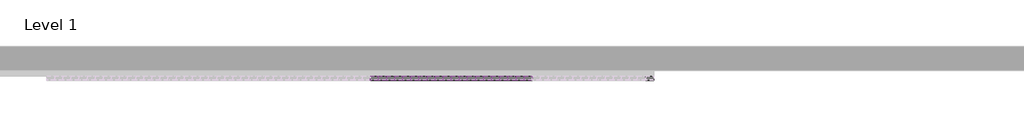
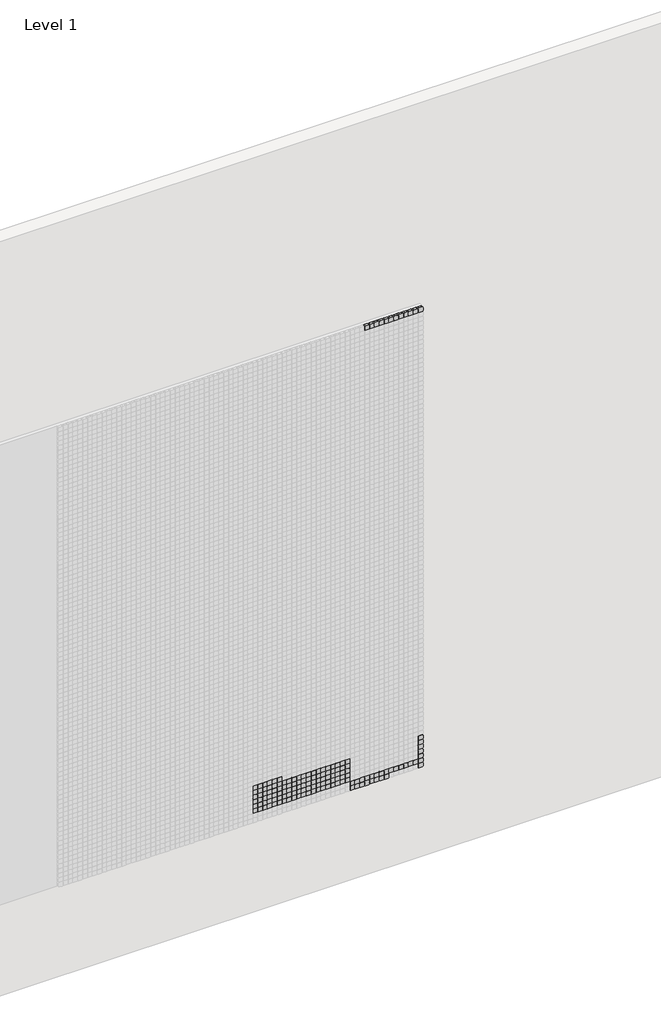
# One storey, part 61 of 71: 147 proxies.
"""IFC4 building model written with IfcOpenShell, lengths in millimetres."""

from ifc_helpers import new_model, si_unit, origin, place, context, project, spatial, transform, mapped, element, save
from components import generic_models_afde289c

model = new_model("IFC4")

# Units and contexts
model_context = context("Model", 3, world=origin())
ifc_project = project(units=[si_unit("LENGTHUNIT", "METRE", prefix="MILLI")], contexts=[model_context])

# Site, building, storey
site = spatial("IfcSite", under=ifc_project)
building = spatial("IfcBuilding", under=site)
storey = spatial("IfcBuildingStorey", under=building, Name="Level 1", Elevation=0.0)

# Proxies
placement = place(None, origin())
generic_models_shape = generic_models_afde289c(model_context)
element("IfcBuildingElementProxy", 1, Name="Pixel_M : Pixel_M", ObjectType="Pixel_M : Pixel_M", at=placement, inside=storey, context=model_context, shape_type="MappedRepresentation", body=[
    mapped(generic_models_shape, transform((9712.4280941, -75.0, 5966.3566215), x_axis=(1.0, 0.0, 0.0), y_axis=(0.0, 0.0, 1.0), z_axis=(0.0, -1.0, 0.0))),
])
element("IfcBuildingElementProxy", 2, Name="Pixel_M : Pixel_M", ObjectType="Pixel_M : Pixel_M", at=placement, inside=storey, context=model_context, shape_type="MappedRepresentation", body=[
    mapped(generic_models_shape, transform((9712.4280941, -75.0, 1016.3566215), x_axis=(1.0, 0.0, 0.0), y_axis=(0.0, 0.0, 1.0), z_axis=(0.0, -1.0, 0.0))),
])
element("IfcBuildingElementProxy", 3, Name="Pixel_M : Pixel_M", ObjectType="Pixel_M : Pixel_M", at=placement, inside=storey, context=model_context, shape_type="MappedRepresentation", body=[
    mapped(generic_models_shape, transform((9362.4280941, -75.0, 1016.3566215), x_axis=(1.0, 0.0, 0.0), y_axis=(0.0, 0.0, 1.0), z_axis=(0.0, -1.0, 0.0))),
])
element("IfcBuildingElementProxy", 4, Name="Pixel_M : Pixel_M", ObjectType="Pixel_M : Pixel_M", at=placement, inside=storey, context=model_context, shape_type="MappedRepresentation", body=[
    mapped(generic_models_shape, transform((9312.4280941, -75.0, 1016.3566215), x_axis=(1.0, 0.0, 0.0), y_axis=(0.0, 0.0, 1.0), z_axis=(0.0, -1.0, 0.0))),
])
element("IfcBuildingElementProxy", 5, Name="Pixel_M : Pixel_M", ObjectType="Pixel_M : Pixel_M", at=placement, inside=storey, context=model_context, shape_type="MappedRepresentation", body=[
    mapped(generic_models_shape, transform((9262.4280941, -75.0, 1016.3566215), x_axis=(1.0, 0.0, 0.0), y_axis=(0.0, 0.0, 1.0), z_axis=(0.0, -1.0, 0.0))),
])
element("IfcBuildingElementProxy", 6, Name="Pixel_M : Pixel_M", ObjectType="Pixel_M : Pixel_M", at=placement, inside=storey, context=model_context, shape_type="MappedRepresentation", body=[
    mapped(generic_models_shape, transform((9212.4280941, -75.0, 1016.3566215), x_axis=(1.0, 0.0, 0.0), y_axis=(0.0, 0.0, 1.0), z_axis=(0.0, -1.0, 0.0))),
])
element("IfcBuildingElementProxy", 7, Name="Pixel_M : Pixel_M", ObjectType="Pixel_M : Pixel_M", at=placement, inside=storey, context=model_context, shape_type="MappedRepresentation", body=[
    mapped(generic_models_shape, transform((9162.4280941, -75.0, 1016.3566215), x_axis=(1.0, 0.0, 0.0), y_axis=(0.0, 0.0, 1.0), z_axis=(0.0, -1.0, 0.0))),
])
element("IfcBuildingElementProxy", 8, Name="Pixel_M : Pixel_M", ObjectType="Pixel_M : Pixel_M", at=placement, inside=storey, context=model_context, shape_type="MappedRepresentation", body=[
    mapped(generic_models_shape, transform((9112.4280941, -75.0, 1016.3566215), x_axis=(1.0, 0.0, 0.0), y_axis=(0.0, 0.0, 1.0), z_axis=(0.0, -1.0, 0.0))),
])
element("IfcBuildingElementProxy", 9, Name="Pixel_M : Pixel_M", ObjectType="Pixel_M : Pixel_M", at=placement, inside=storey, context=model_context, shape_type="MappedRepresentation", body=[
    mapped(generic_models_shape, transform((9062.4280941, -75.0, 1016.3566215), x_axis=(1.0, 0.0, 0.0), y_axis=(0.0, 0.0, 1.0), z_axis=(0.0, -1.0, 0.0))),
])
element("IfcBuildingElementProxy", 10, Name="Pixel_M : Pixel_M", ObjectType="Pixel_M : Pixel_M", at=placement, inside=storey, context=model_context, shape_type="MappedRepresentation", body=[
    mapped(generic_models_shape, transform((9012.4280941, -75.0, 1016.3566215), x_axis=(1.0, 0.0, 0.0), y_axis=(0.0, 0.0, 1.0), z_axis=(0.0, -1.0, 0.0))),
])
element("IfcBuildingElementProxy", 11, Name="Pixel_M : Pixel_M", ObjectType="Pixel_M : Pixel_M", at=placement, inside=storey, context=model_context, shape_type="MappedRepresentation", body=[
    mapped(generic_models_shape, transform((9662.4280941, -75.0, 1066.3566215), x_axis=(1.0, 0.0, 0.0), y_axis=(0.0, 0.0, 1.0), z_axis=(0.0, -1.0, 0.0))),
])
element("IfcBuildingElementProxy", 12, Name="Pixel_M : Pixel_M", ObjectType="Pixel_M : Pixel_M", at=placement, inside=storey, context=model_context, shape_type="MappedRepresentation", body=[
    mapped(generic_models_shape, transform((9612.4280941, -75.0, 1066.3566215), x_axis=(1.0, 0.0, 0.0), y_axis=(0.0, 0.0, 1.0), z_axis=(0.0, -1.0, 0.0))),
])
element("IfcBuildingElementProxy", 13, Name="Pixel_M : Pixel_M", ObjectType="Pixel_M : Pixel_M", at=placement, inside=storey, context=model_context, shape_type="MappedRepresentation", body=[
    mapped(generic_models_shape, transform((9562.4280941, -75.0, 1066.3566215), x_axis=(1.0, 0.0, 0.0), y_axis=(0.0, 0.0, 1.0), z_axis=(0.0, -1.0, 0.0))),
])
element("IfcBuildingElementProxy", 14, Name="Pixel_M : Pixel_M", ObjectType="Pixel_M : Pixel_M", at=placement, inside=storey, context=model_context, shape_type="MappedRepresentation", body=[
    mapped(generic_models_shape, transform((9512.4280941, -75.0, 1066.3566215), x_axis=(1.0, 0.0, 0.0), y_axis=(0.0, 0.0, 1.0), z_axis=(0.0, -1.0, 0.0))),
])
element("IfcBuildingElementProxy", 15, Name="Pixel_M : Pixel_M", ObjectType="Pixel_M : Pixel_M", at=placement, inside=storey, context=model_context, shape_type="MappedRepresentation", body=[
    mapped(generic_models_shape, transform((9462.4280941, -75.0, 1066.3566215), x_axis=(1.0, 0.0, 0.0), y_axis=(0.0, 0.0, 1.0), z_axis=(0.0, -1.0, 0.0))),
])
element("IfcBuildingElementProxy", 16, Name="Pixel_M : Pixel_M", ObjectType="Pixel_M : Pixel_M", at=placement, inside=storey, context=model_context, shape_type="MappedRepresentation", body=[
    mapped(generic_models_shape, transform((9412.4280941, -75.0, 1066.3566215), x_axis=(1.0, 0.0, 0.0), y_axis=(0.0, 0.0, 1.0), z_axis=(0.0, -1.0, 0.0))),
])
element("IfcBuildingElementProxy", 17, Name="Pixel_M : Pixel_M", ObjectType="Pixel_M : Pixel_M", at=placement, inside=storey, context=model_context, shape_type="MappedRepresentation", body=[
    mapped(generic_models_shape, transform((9362.4280941, -75.0, 1066.3566215), x_axis=(1.0, 0.0, 0.0), y_axis=(0.0, 0.0, 1.0), z_axis=(0.0, -1.0, 0.0))),
])
element("IfcBuildingElementProxy", 18, Name="Pixel_M : Pixel_M", ObjectType="Pixel_M : Pixel_M", at=placement, inside=storey, context=model_context, shape_type="MappedRepresentation", body=[
    mapped(generic_models_shape, transform((9312.4280941, -75.0, 1066.3566215), x_axis=(1.0, 0.0, 0.0), y_axis=(0.0, 0.0, 1.0), z_axis=(0.0, -1.0, 0.0))),
])
element("IfcBuildingElementProxy", 19, Name="Pixel_M : Pixel_M", ObjectType="Pixel_M : Pixel_M", at=placement, inside=storey, context=model_context, shape_type="MappedRepresentation", body=[
    mapped(generic_models_shape, transform((9262.4280941, -75.0, 1066.3566215), x_axis=(1.0, 0.0, 0.0), y_axis=(0.0, 0.0, 1.0), z_axis=(0.0, -1.0, 0.0))),
])
element("IfcBuildingElementProxy", 20, Name="Pixel_M : Pixel_M", ObjectType="Pixel_M : Pixel_M", at=placement, inside=storey, context=model_context, shape_type="MappedRepresentation", body=[
    mapped(generic_models_shape, transform((9212.4280941, -75.0, 1066.3566215), x_axis=(1.0, 0.0, 0.0), y_axis=(0.0, 0.0, 1.0), z_axis=(0.0, -1.0, 0.0))),
])
element("IfcBuildingElementProxy", 21, Name="Pixel_M : Pixel_M", ObjectType="Pixel_M : Pixel_M", at=placement, inside=storey, context=model_context, shape_type="MappedRepresentation", body=[
    mapped(generic_models_shape, transform((9162.4280941, -75.0, 1066.3566215), x_axis=(1.0, 0.0, 0.0), y_axis=(0.0, 0.0, 1.0), z_axis=(0.0, -1.0, 0.0))),
])
element("IfcBuildingElementProxy", 22, Name="Pixel_M : Pixel_M", ObjectType="Pixel_M : Pixel_M", at=placement, inside=storey, context=model_context, shape_type="MappedRepresentation", body=[
    mapped(generic_models_shape, transform((9112.4280941, -75.0, 1066.3566215), x_axis=(1.0, 0.0, 0.0), y_axis=(0.0, 0.0, 1.0), z_axis=(0.0, -1.0, 0.0))),
])
element("IfcBuildingElementProxy", 23, Name="Pixel_M : Pixel_M", ObjectType="Pixel_M : Pixel_M", at=placement, inside=storey, context=model_context, shape_type="MappedRepresentation", body=[
    mapped(generic_models_shape, transform((9062.4280941, -75.0, 1066.3566215), x_axis=(1.0, 0.0, 0.0), y_axis=(0.0, 0.0, 1.0), z_axis=(0.0, -1.0, 0.0))),
])
element("IfcBuildingElementProxy", 24, Name="Pixel_M : Pixel_M", ObjectType="Pixel_M : Pixel_M", at=placement, inside=storey, context=model_context, shape_type="MappedRepresentation", body=[
    mapped(generic_models_shape, transform((9012.4280941, -75.0, 1066.3566215), x_axis=(1.0, 0.0, 0.0), y_axis=(0.0, 0.0, 1.0), z_axis=(0.0, -1.0, 0.0))),
])
element("IfcBuildingElementProxy", 25, Name="Pixel_M : Pixel_M", ObjectType="Pixel_M : Pixel_M", at=placement, inside=storey, context=model_context, shape_type="MappedRepresentation", body=[
    mapped(generic_models_shape, transform((9712.4280941, -75.0, 1316.3566215), x_axis=(1.0, 0.0, 0.0), y_axis=(0.0, 0.0, 1.0), z_axis=(0.0, -1.0, 0.0))),
])
element("IfcBuildingElementProxy", 26, Name="Pixel_M : Pixel_M", ObjectType="Pixel_M : Pixel_M", at=placement, inside=storey, context=model_context, shape_type="MappedRepresentation", body=[
    mapped(generic_models_shape, transform((9712.4280941, -75.0, 1266.3566215), x_axis=(1.0, 0.0, 0.0), y_axis=(0.0, 0.0, 1.0), z_axis=(0.0, -1.0, 0.0))),
])
element("IfcBuildingElementProxy", 27, Name="Pixel_M : Pixel_M", ObjectType="Pixel_M : Pixel_M", at=placement, inside=storey, context=model_context, shape_type="MappedRepresentation", body=[
    mapped(generic_models_shape, transform((9712.4280941, -75.0, 1216.3566215), x_axis=(1.0, 0.0, 0.0), y_axis=(0.0, 0.0, 1.0), z_axis=(0.0, -1.0, 0.0))),
])
element("IfcBuildingElementProxy", 28, Name="Pixel_M : Pixel_M", ObjectType="Pixel_M : Pixel_M", at=placement, inside=storey, context=model_context, shape_type="MappedRepresentation", body=[
    mapped(generic_models_shape, transform((9712.4280941, -75.0, 1166.3566215), x_axis=(1.0, 0.0, 0.0), y_axis=(0.0, 0.0, 1.0), z_axis=(0.0, -1.0, 0.0))),
])
element("IfcBuildingElementProxy", 29, Name="Pixel_M : Pixel_M", ObjectType="Pixel_M : Pixel_M", at=placement, inside=storey, context=model_context, shape_type="MappedRepresentation", body=[
    mapped(generic_models_shape, transform((9712.4280941, -75.0, 1116.3566215), x_axis=(1.0, 0.0, 0.0), y_axis=(0.0, 0.0, 1.0), z_axis=(0.0, -1.0, 0.0))),
])
element("IfcBuildingElementProxy", 30, Name="Pixel_M : Pixel_M", ObjectType="Pixel_M : Pixel_M", at=placement, inside=storey, context=model_context, shape_type="MappedRepresentation", body=[
    mapped(generic_models_shape, transform((9712.4280941, -75.0, 1066.3566215), x_axis=(1.0, 0.0, 0.0), y_axis=(0.0, 0.0, 1.0), z_axis=(0.0, -1.0, 0.0))),
])
element("IfcBuildingElementProxy", 31, Name="Pixel_M : Pixel_M", ObjectType="Pixel_M : Pixel_M", at=placement, inside=storey, context=model_context, shape_type="MappedRepresentation", body=[
    mapped(generic_models_shape, transform((9662.4280941, -75.0, 5966.3566215), x_axis=(1.0, 0.0, 0.0), y_axis=(0.0, 0.0, 1.0), z_axis=(0.0, -1.0, 0.0))),
])
element("IfcBuildingElementProxy", 32, Name="Pixel_M : Pixel_M", ObjectType="Pixel_M : Pixel_M", at=placement, inside=storey, context=model_context, shape_type="MappedRepresentation", body=[
    mapped(generic_models_shape, transform((9612.4280941, -75.0, 5966.3566215), x_axis=(1.0, 0.0, 0.0), y_axis=(0.0, 0.0, 1.0), z_axis=(0.0, -1.0, 0.0))),
])
element("IfcBuildingElementProxy", 33, Name="Pixel_M : Pixel_M", ObjectType="Pixel_M : Pixel_M", at=placement, inside=storey, context=model_context, shape_type="MappedRepresentation", body=[
    mapped(generic_models_shape, transform((9562.4280941, -75.0, 5966.3566215), x_axis=(1.0, 0.0, 0.0), y_axis=(0.0, 0.0, 1.0), z_axis=(0.0, -1.0, 0.0))),
])
element("IfcBuildingElementProxy", 34, Name="Pixel_M : Pixel_M", ObjectType="Pixel_M : Pixel_M", at=placement, inside=storey, context=model_context, shape_type="MappedRepresentation", body=[
    mapped(generic_models_shape, transform((9512.4280941, -75.0, 5966.3566215), x_axis=(1.0, 0.0, 0.0), y_axis=(0.0, 0.0, 1.0), z_axis=(0.0, -1.0, 0.0))),
])
element("IfcBuildingElementProxy", 35, Name="Pixel_M : Pixel_M", ObjectType="Pixel_M : Pixel_M", at=placement, inside=storey, context=model_context, shape_type="MappedRepresentation", body=[
    mapped(generic_models_shape, transform((9462.4280941, -75.0, 5966.3566215), x_axis=(1.0, 0.0, 0.0), y_axis=(0.0, 0.0, 1.0), z_axis=(0.0, -1.0, 0.0))),
])
element("IfcBuildingElementProxy", 36, Name="Pixel_M : Pixel_M", ObjectType="Pixel_M : Pixel_M", at=placement, inside=storey, context=model_context, shape_type="MappedRepresentation", body=[
    mapped(generic_models_shape, transform((9412.4280941, -75.0, 5966.3566215), x_axis=(1.0, 0.0, 0.0), y_axis=(0.0, 0.0, 1.0), z_axis=(0.0, -1.0, 0.0))),
])
element("IfcBuildingElementProxy", 37, Name="Pixel_M : Pixel_M", ObjectType="Pixel_M : Pixel_M", at=placement, inside=storey, context=model_context, shape_type="MappedRepresentation", body=[
    mapped(generic_models_shape, transform((9362.4280941, -75.0, 5966.3566215), x_axis=(1.0, 0.0, 0.0), y_axis=(0.0, 0.0, 1.0), z_axis=(0.0, -1.0, 0.0))),
])
element("IfcBuildingElementProxy", 38, Name="Pixel_M : Pixel_M", ObjectType="Pixel_M : Pixel_M", at=placement, inside=storey, context=model_context, shape_type="MappedRepresentation", body=[
    mapped(generic_models_shape, transform((9312.4280941, -75.0, 5966.3566215), x_axis=(1.0, 0.0, 0.0), y_axis=(0.0, 0.0, 1.0), z_axis=(0.0, -1.0, 0.0))),
])
element("IfcBuildingElementProxy", 39, Name="Pixel_M : Pixel_M", ObjectType="Pixel_M : Pixel_M", at=placement, inside=storey, context=model_context, shape_type="MappedRepresentation", body=[
    mapped(generic_models_shape, transform((9262.4280941, -75.0, 5966.3566215), x_axis=(1.0, 0.0, 0.0), y_axis=(0.0, 0.0, 1.0), z_axis=(0.0, -1.0, 0.0))),
])
element("IfcBuildingElementProxy", 40, Name="Pixel_M : Pixel_M", ObjectType="Pixel_M : Pixel_M", at=placement, inside=storey, context=model_context, shape_type="MappedRepresentation", body=[
    mapped(generic_models_shape, transform((9212.4280941, -75.0, 5966.3566215), x_axis=(1.0, 0.0, 0.0), y_axis=(0.0, 0.0, 1.0), z_axis=(0.0, -1.0, 0.0))),
])
element("IfcBuildingElementProxy", 41, Name="Pixel_M : Pixel_M", ObjectType="Pixel_M : Pixel_M", at=placement, inside=storey, context=model_context, shape_type="MappedRepresentation", body=[
    mapped(generic_models_shape, transform((9162.4280941, -75.0, 5966.3566215), x_axis=(1.0, 0.0, 0.0), y_axis=(0.0, 0.0, 1.0), z_axis=(0.0, -1.0, 0.0))),
])
element("IfcBuildingElementProxy", 42, Name="Pixel_M : Pixel_M", ObjectType="Pixel_M : Pixel_M", at=placement, inside=storey, context=model_context, shape_type="MappedRepresentation", body=[
    mapped(generic_models_shape, transform((8262.4280941, -75.0, 1366.3566215), x_axis=(1.0, 0.0, 0.0), y_axis=(0.0, 0.0, 1.0), z_axis=(0.0, -1.0, 0.0))),
])
element("IfcBuildingElementProxy", 43, Name="Pixel_M : Pixel_M", ObjectType="Pixel_M : Pixel_M", at=placement, inside=storey, context=model_context, shape_type="MappedRepresentation", body=[
    mapped(generic_models_shape, transform((8212.4280941, -75.0, 1366.3566215), x_axis=(1.0, 0.0, 0.0), y_axis=(0.0, 0.0, 1.0), z_axis=(0.0, -1.0, 0.0))),
])
element("IfcBuildingElementProxy", 44, Name="Pixel_M : Pixel_M", ObjectType="Pixel_M : Pixel_M", at=placement, inside=storey, context=model_context, shape_type="MappedRepresentation", body=[
    mapped(generic_models_shape, transform((8162.4280941, -75.0, 1366.3566215), x_axis=(1.0, 0.0, 0.0), y_axis=(0.0, 0.0, 1.0), z_axis=(0.0, -1.0, 0.0))),
])
element("IfcBuildingElementProxy", 45, Name="Pixel_M : Pixel_M", ObjectType="Pixel_M : Pixel_M", at=placement, inside=storey, context=model_context, shape_type="MappedRepresentation", body=[
    mapped(generic_models_shape, transform((8112.4280941, -75.0, 1366.3566215), x_axis=(1.0, 0.0, 0.0), y_axis=(0.0, 0.0, 1.0), z_axis=(0.0, -1.0, 0.0))),
])
element("IfcBuildingElementProxy", 46, Name="Pixel_M : Pixel_M", ObjectType="Pixel_M : Pixel_M", at=placement, inside=storey, context=model_context, shape_type="MappedRepresentation", body=[
    mapped(generic_models_shape, transform((8062.4280941, -75.0, 1366.3566215), x_axis=(1.0, 0.0, 0.0), y_axis=(0.0, 0.0, 1.0), z_axis=(0.0, -1.0, 0.0))),
])
element("IfcBuildingElementProxy", 47, Name="Pixel_M : Pixel_M", ObjectType="Pixel_M : Pixel_M", at=placement, inside=storey, context=model_context, shape_type="MappedRepresentation", body=[
    mapped(generic_models_shape, transform((8012.4280941, -75.0, 1366.3566215), x_axis=(1.0, 0.0, 0.0), y_axis=(0.0, 0.0, 1.0), z_axis=(0.0, -1.0, 0.0))),
])
element("IfcBuildingElementProxy", 48, Name="Pixel_M : Pixel_M", ObjectType="Pixel_M : Pixel_M", at=placement, inside=storey, context=model_context, shape_type="MappedRepresentation", body=[
    mapped(generic_models_shape, transform((8962.4280941, -75.0, 1316.3566215), x_axis=(1.0, 0.0, 0.0), y_axis=(0.0, 0.0, 1.0), z_axis=(0.0, -1.0, 0.0))),
])
element("IfcBuildingElementProxy", 49, Name="Pixel_M : Pixel_M", ObjectType="Pixel_M : Pixel_M", at=placement, inside=storey, context=model_context, shape_type="MappedRepresentation", body=[
    mapped(generic_models_shape, transform((8912.4280941, -75.0, 1316.3566215), x_axis=(1.0, 0.0, 0.0), y_axis=(0.0, 0.0, 1.0), z_axis=(0.0, -1.0, 0.0))),
])
element("IfcBuildingElementProxy", 50, Name="Pixel_M : Pixel_M", ObjectType="Pixel_M : Pixel_M", at=placement, inside=storey, context=model_context, shape_type="MappedRepresentation", body=[
    mapped(generic_models_shape, transform((8862.4280941, -75.0, 1316.3566215), x_axis=(1.0, 0.0, 0.0), y_axis=(0.0, 0.0, 1.0), z_axis=(0.0, -1.0, 0.0))),
])
element("IfcBuildingElementProxy", 51, Name="Pixel_M : Pixel_M", ObjectType="Pixel_M : Pixel_M", at=placement, inside=storey, context=model_context, shape_type="MappedRepresentation", body=[
    mapped(generic_models_shape, transform((8812.4280941, -75.0, 1316.3566215), x_axis=(1.0, 0.0, 0.0), y_axis=(0.0, 0.0, 1.0), z_axis=(0.0, -1.0, 0.0))),
])
element("IfcBuildingElementProxy", 52, Name="Pixel_M : Pixel_M", ObjectType="Pixel_M : Pixel_M", at=placement, inside=storey, context=model_context, shape_type="MappedRepresentation", body=[
    mapped(generic_models_shape, transform((8762.4280941, -75.0, 1316.3566215), x_axis=(1.0, 0.0, 0.0), y_axis=(0.0, 0.0, 1.0), z_axis=(0.0, -1.0, 0.0))),
])
element("IfcBuildingElementProxy", 53, Name="Pixel_M : Pixel_M", ObjectType="Pixel_M : Pixel_M", at=placement, inside=storey, context=model_context, shape_type="MappedRepresentation", body=[
    mapped(generic_models_shape, transform((8712.4280941, -75.0, 1316.3566215), x_axis=(1.0, 0.0, 0.0), y_axis=(0.0, 0.0, 1.0), z_axis=(0.0, -1.0, 0.0))),
])
element("IfcBuildingElementProxy", 54, Name="Pixel_M : Pixel_M", ObjectType="Pixel_M : Pixel_M", at=placement, inside=storey, context=model_context, shape_type="MappedRepresentation", body=[
    mapped(generic_models_shape, transform((8662.4280941, -75.0, 1316.3566215), x_axis=(1.0, 0.0, 0.0), y_axis=(0.0, 0.0, 1.0), z_axis=(0.0, -1.0, 0.0))),
])
element("IfcBuildingElementProxy", 55, Name="Pixel_M : Pixel_M", ObjectType="Pixel_M : Pixel_M", at=placement, inside=storey, context=model_context, shape_type="MappedRepresentation", body=[
    mapped(generic_models_shape, transform((8612.4280941, -75.0, 1316.3566215), x_axis=(1.0, 0.0, 0.0), y_axis=(0.0, 0.0, 1.0), z_axis=(0.0, -1.0, 0.0))),
])
element("IfcBuildingElementProxy", 56, Name="Pixel_M : Pixel_M", ObjectType="Pixel_M : Pixel_M", at=placement, inside=storey, context=model_context, shape_type="MappedRepresentation", body=[
    mapped(generic_models_shape, transform((8562.4280941, -75.0, 1316.3566215), x_axis=(1.0, 0.0, 0.0), y_axis=(0.0, 0.0, 1.0), z_axis=(0.0, -1.0, 0.0))),
])
element("IfcBuildingElementProxy", 57, Name="Pixel_M : Pixel_M", ObjectType="Pixel_M : Pixel_M", at=placement, inside=storey, context=model_context, shape_type="MappedRepresentation", body=[
    mapped(generic_models_shape, transform((8512.4280941, -75.0, 1316.3566215), x_axis=(1.0, 0.0, 0.0), y_axis=(0.0, 0.0, 1.0), z_axis=(0.0, -1.0, 0.0))),
])
element("IfcBuildingElementProxy", 58, Name="Pixel_M : Pixel_M", ObjectType="Pixel_M : Pixel_M", at=placement, inside=storey, context=model_context, shape_type="MappedRepresentation", body=[
    mapped(generic_models_shape, transform((8462.4280941, -75.0, 1316.3566215), x_axis=(1.0, 0.0, 0.0), y_axis=(0.0, 0.0, 1.0), z_axis=(0.0, -1.0, 0.0))),
])
element("IfcBuildingElementProxy", 59, Name="Pixel_M : Pixel_M", ObjectType="Pixel_M : Pixel_M", at=placement, inside=storey, context=model_context, shape_type="MappedRepresentation", body=[
    mapped(generic_models_shape, transform((8412.4280941, -75.0, 1316.3566215), x_axis=(1.0, 0.0, 0.0), y_axis=(0.0, 0.0, 1.0), z_axis=(0.0, -1.0, 0.0))),
])
element("IfcBuildingElementProxy", 60, Name="Pixel_M : Pixel_M", ObjectType="Pixel_M : Pixel_M", at=placement, inside=storey, context=model_context, shape_type="MappedRepresentation", body=[
    mapped(generic_models_shape, transform((8362.4280941, -75.0, 1316.3566215), x_axis=(1.0, 0.0, 0.0), y_axis=(0.0, 0.0, 1.0), z_axis=(0.0, -1.0, 0.0))),
])
element("IfcBuildingElementProxy", 61, Name="Pixel_M : Pixel_M", ObjectType="Pixel_M : Pixel_M", at=placement, inside=storey, context=model_context, shape_type="MappedRepresentation", body=[
    mapped(generic_models_shape, transform((8312.4280941, -75.0, 1316.3566215), x_axis=(1.0, 0.0, 0.0), y_axis=(0.0, 0.0, 1.0), z_axis=(0.0, -1.0, 0.0))),
])
element("IfcBuildingElementProxy", 62, Name="Pixel_M : Pixel_M", ObjectType="Pixel_M : Pixel_M", at=placement, inside=storey, context=model_context, shape_type="MappedRepresentation", body=[
    mapped(generic_models_shape, transform((8262.4280941, -75.0, 1316.3566215), x_axis=(1.0, 0.0, 0.0), y_axis=(0.0, 0.0, 1.0), z_axis=(0.0, -1.0, 0.0))),
])
element("IfcBuildingElementProxy", 63, Name="Pixel_M : Pixel_M", ObjectType="Pixel_M : Pixel_M", at=placement, inside=storey, context=model_context, shape_type="MappedRepresentation", body=[
    mapped(generic_models_shape, transform((8212.4280941, -75.0, 1316.3566215), x_axis=(1.0, 0.0, 0.0), y_axis=(0.0, 0.0, 1.0), z_axis=(0.0, -1.0, 0.0))),
])
element("IfcBuildingElementProxy", 64, Name="Pixel_M : Pixel_M", ObjectType="Pixel_M : Pixel_M", at=placement, inside=storey, context=model_context, shape_type="MappedRepresentation", body=[
    mapped(generic_models_shape, transform((8162.4280941, -75.0, 1316.3566215), x_axis=(1.0, 0.0, 0.0), y_axis=(0.0, 0.0, 1.0), z_axis=(0.0, -1.0, 0.0))),
])
element("IfcBuildingElementProxy", 65, Name="Pixel_M : Pixel_M", ObjectType="Pixel_M : Pixel_M", at=placement, inside=storey, context=model_context, shape_type="MappedRepresentation", body=[
    mapped(generic_models_shape, transform((8112.4280941, -75.0, 1316.3566215), x_axis=(1.0, 0.0, 0.0), y_axis=(0.0, 0.0, 1.0), z_axis=(0.0, -1.0, 0.0))),
])
element("IfcBuildingElementProxy", 66, Name="Pixel_M : Pixel_M", ObjectType="Pixel_M : Pixel_M", at=placement, inside=storey, context=model_context, shape_type="MappedRepresentation", body=[
    mapped(generic_models_shape, transform((8062.4280941, -75.0, 1316.3566215), x_axis=(1.0, 0.0, 0.0), y_axis=(0.0, 0.0, 1.0), z_axis=(0.0, -1.0, 0.0))),
])
element("IfcBuildingElementProxy", 67, Name="Pixel_M : Pixel_M", ObjectType="Pixel_M : Pixel_M", at=placement, inside=storey, context=model_context, shape_type="MappedRepresentation", body=[
    mapped(generic_models_shape, transform((8012.4280941, -75.0, 1316.3566215), x_axis=(1.0, 0.0, 0.0), y_axis=(0.0, 0.0, 1.0), z_axis=(0.0, -1.0, 0.0))),
])
element("IfcBuildingElementProxy", 68, Name="Pixel_M : Pixel_M", ObjectType="Pixel_M : Pixel_M", at=placement, inside=storey, context=model_context, shape_type="MappedRepresentation", body=[
    mapped(generic_models_shape, transform((8962.4280941, -75.0, 1266.3566215), x_axis=(1.0, 0.0, 0.0), y_axis=(0.0, 0.0, 1.0), z_axis=(0.0, -1.0, 0.0))),
])
element("IfcBuildingElementProxy", 69, Name="Pixel_M : Pixel_M", ObjectType="Pixel_M : Pixel_M", at=placement, inside=storey, context=model_context, shape_type="MappedRepresentation", body=[
    mapped(generic_models_shape, transform((8912.4280941, -75.0, 1266.3566215), x_axis=(1.0, 0.0, 0.0), y_axis=(0.0, 0.0, 1.0), z_axis=(0.0, -1.0, 0.0))),
])
element("IfcBuildingElementProxy", 70, Name="Pixel_M : Pixel_M", ObjectType="Pixel_M : Pixel_M", at=placement, inside=storey, context=model_context, shape_type="MappedRepresentation", body=[
    mapped(generic_models_shape, transform((8862.4280941, -75.0, 1266.3566215), x_axis=(1.0, 0.0, 0.0), y_axis=(0.0, 0.0, 1.0), z_axis=(0.0, -1.0, 0.0))),
])
element("IfcBuildingElementProxy", 71, Name="Pixel_M : Pixel_M", ObjectType="Pixel_M : Pixel_M", at=placement, inside=storey, context=model_context, shape_type="MappedRepresentation", body=[
    mapped(generic_models_shape, transform((8812.4280941, -75.0, 1266.3566215), x_axis=(1.0, 0.0, 0.0), y_axis=(0.0, 0.0, 1.0), z_axis=(0.0, -1.0, 0.0))),
])
element("IfcBuildingElementProxy", 72, Name="Pixel_M : Pixel_M", ObjectType="Pixel_M : Pixel_M", at=placement, inside=storey, context=model_context, shape_type="MappedRepresentation", body=[
    mapped(generic_models_shape, transform((8762.4280941, -75.0, 1266.3566215), x_axis=(1.0, 0.0, 0.0), y_axis=(0.0, 0.0, 1.0), z_axis=(0.0, -1.0, 0.0))),
])
element("IfcBuildingElementProxy", 73, Name="Pixel_M : Pixel_M", ObjectType="Pixel_M : Pixel_M", at=placement, inside=storey, context=model_context, shape_type="MappedRepresentation", body=[
    mapped(generic_models_shape, transform((8712.4280941, -75.0, 1266.3566215), x_axis=(1.0, 0.0, 0.0), y_axis=(0.0, 0.0, 1.0), z_axis=(0.0, -1.0, 0.0))),
])
element("IfcBuildingElementProxy", 74, Name="Pixel_M : Pixel_M", ObjectType="Pixel_M : Pixel_M", at=placement, inside=storey, context=model_context, shape_type="MappedRepresentation", body=[
    mapped(generic_models_shape, transform((8662.4280941, -75.0, 1266.3566215), x_axis=(1.0, 0.0, 0.0), y_axis=(0.0, 0.0, 1.0), z_axis=(0.0, -1.0, 0.0))),
])
element("IfcBuildingElementProxy", 75, Name="Pixel_M : Pixel_M", ObjectType="Pixel_M : Pixel_M", at=placement, inside=storey, context=model_context, shape_type="MappedRepresentation", body=[
    mapped(generic_models_shape, transform((8612.4280941, -75.0, 1266.3566215), x_axis=(1.0, 0.0, 0.0), y_axis=(0.0, 0.0, 1.0), z_axis=(0.0, -1.0, 0.0))),
])
element("IfcBuildingElementProxy", 76, Name="Pixel_M : Pixel_M", ObjectType="Pixel_M : Pixel_M", at=placement, inside=storey, context=model_context, shape_type="MappedRepresentation", body=[
    mapped(generic_models_shape, transform((8562.4280941, -75.0, 1266.3566215), x_axis=(1.0, 0.0, 0.0), y_axis=(0.0, 0.0, 1.0), z_axis=(0.0, -1.0, 0.0))),
])
element("IfcBuildingElementProxy", 77, Name="Pixel_M : Pixel_M", ObjectType="Pixel_M : Pixel_M", at=placement, inside=storey, context=model_context, shape_type="MappedRepresentation", body=[
    mapped(generic_models_shape, transform((8512.4280941, -75.0, 1266.3566215), x_axis=(1.0, 0.0, 0.0), y_axis=(0.0, 0.0, 1.0), z_axis=(0.0, -1.0, 0.0))),
])
element("IfcBuildingElementProxy", 78, Name="Pixel_M : Pixel_M", ObjectType="Pixel_M : Pixel_M", at=placement, inside=storey, context=model_context, shape_type="MappedRepresentation", body=[
    mapped(generic_models_shape, transform((8462.4280941, -75.0, 1266.3566215), x_axis=(1.0, 0.0, 0.0), y_axis=(0.0, 0.0, 1.0), z_axis=(0.0, -1.0, 0.0))),
])
element("IfcBuildingElementProxy", 79, Name="Pixel_M : Pixel_M", ObjectType="Pixel_M : Pixel_M", at=placement, inside=storey, context=model_context, shape_type="MappedRepresentation", body=[
    mapped(generic_models_shape, transform((8412.4280941, -75.0, 1266.3566215), x_axis=(1.0, 0.0, 0.0), y_axis=(0.0, 0.0, 1.0), z_axis=(0.0, -1.0, 0.0))),
])
element("IfcBuildingElementProxy", 80, Name="Pixel_M : Pixel_M", ObjectType="Pixel_M : Pixel_M", at=placement, inside=storey, context=model_context, shape_type="MappedRepresentation", body=[
    mapped(generic_models_shape, transform((8362.4280941, -75.0, 1266.3566215), x_axis=(1.0, 0.0, 0.0), y_axis=(0.0, 0.0, 1.0), z_axis=(0.0, -1.0, 0.0))),
])
element("IfcBuildingElementProxy", 81, Name="Pixel_M : Pixel_M", ObjectType="Pixel_M : Pixel_M", at=placement, inside=storey, context=model_context, shape_type="MappedRepresentation", body=[
    mapped(generic_models_shape, transform((8312.4280941, -75.0, 1266.3566215), x_axis=(1.0, 0.0, 0.0), y_axis=(0.0, 0.0, 1.0), z_axis=(0.0, -1.0, 0.0))),
])
element("IfcBuildingElementProxy", 82, Name="Pixel_M : Pixel_M", ObjectType="Pixel_M : Pixel_M", at=placement, inside=storey, context=model_context, shape_type="MappedRepresentation", body=[
    mapped(generic_models_shape, transform((8262.4280941, -75.0, 1266.3566215), x_axis=(1.0, 0.0, 0.0), y_axis=(0.0, 0.0, 1.0), z_axis=(0.0, -1.0, 0.0))),
])
element("IfcBuildingElementProxy", 83, Name="Pixel_M : Pixel_M", ObjectType="Pixel_M : Pixel_M", at=placement, inside=storey, context=model_context, shape_type="MappedRepresentation", body=[
    mapped(generic_models_shape, transform((8212.4280941, -75.0, 1266.3566215), x_axis=(1.0, 0.0, 0.0), y_axis=(0.0, 0.0, 1.0), z_axis=(0.0, -1.0, 0.0))),
])
element("IfcBuildingElementProxy", 84, Name="Pixel_M : Pixel_M", ObjectType="Pixel_M : Pixel_M", at=placement, inside=storey, context=model_context, shape_type="MappedRepresentation", body=[
    mapped(generic_models_shape, transform((8162.4280941, -75.0, 1266.3566215), x_axis=(1.0, 0.0, 0.0), y_axis=(0.0, 0.0, 1.0), z_axis=(0.0, -1.0, 0.0))),
])
element("IfcBuildingElementProxy", 85, Name="Pixel_M : Pixel_M", ObjectType="Pixel_M : Pixel_M", at=placement, inside=storey, context=model_context, shape_type="MappedRepresentation", body=[
    mapped(generic_models_shape, transform((8112.4280941, -75.0, 1266.3566215), x_axis=(1.0, 0.0, 0.0), y_axis=(0.0, 0.0, 1.0), z_axis=(0.0, -1.0, 0.0))),
])
element("IfcBuildingElementProxy", 86, Name="Pixel_M : Pixel_M", ObjectType="Pixel_M : Pixel_M", at=placement, inside=storey, context=model_context, shape_type="MappedRepresentation", body=[
    mapped(generic_models_shape, transform((8062.4280941, -75.0, 1266.3566215), x_axis=(1.0, 0.0, 0.0), y_axis=(0.0, 0.0, 1.0), z_axis=(0.0, -1.0, 0.0))),
])
element("IfcBuildingElementProxy", 87, Name="Pixel_M : Pixel_M", ObjectType="Pixel_M : Pixel_M", at=placement, inside=storey, context=model_context, shape_type="MappedRepresentation", body=[
    mapped(generic_models_shape, transform((8012.4280941, -75.0, 1266.3566215), x_axis=(1.0, 0.0, 0.0), y_axis=(0.0, 0.0, 1.0), z_axis=(0.0, -1.0, 0.0))),
])
element("IfcBuildingElementProxy", 88, Name="Pixel_M : Pixel_M", ObjectType="Pixel_M : Pixel_M", at=placement, inside=storey, context=model_context, shape_type="MappedRepresentation", body=[
    mapped(generic_models_shape, transform((8962.4280941, -75.0, 1216.3566215), x_axis=(1.0, 0.0, 0.0), y_axis=(0.0, 0.0, 1.0), z_axis=(0.0, -1.0, 0.0))),
])
element("IfcBuildingElementProxy", 89, Name="Pixel_M : Pixel_M", ObjectType="Pixel_M : Pixel_M", at=placement, inside=storey, context=model_context, shape_type="MappedRepresentation", body=[
    mapped(generic_models_shape, transform((8912.4280941, -75.0, 1216.3566215), x_axis=(1.0, 0.0, 0.0), y_axis=(0.0, 0.0, 1.0), z_axis=(0.0, -1.0, 0.0))),
])
element("IfcBuildingElementProxy", 90, Name="Pixel_M : Pixel_M", ObjectType="Pixel_M : Pixel_M", at=placement, inside=storey, context=model_context, shape_type="MappedRepresentation", body=[
    mapped(generic_models_shape, transform((8862.4280941, -75.0, 1216.3566215), x_axis=(1.0, 0.0, 0.0), y_axis=(0.0, 0.0, 1.0), z_axis=(0.0, -1.0, 0.0))),
])
element("IfcBuildingElementProxy", 91, Name="Pixel_M : Pixel_M", ObjectType="Pixel_M : Pixel_M", at=placement, inside=storey, context=model_context, shape_type="MappedRepresentation", body=[
    mapped(generic_models_shape, transform((8812.4280941, -75.0, 1216.3566215), x_axis=(1.0, 0.0, 0.0), y_axis=(0.0, 0.0, 1.0), z_axis=(0.0, -1.0, 0.0))),
])
element("IfcBuildingElementProxy", 92, Name="Pixel_M : Pixel_M", ObjectType="Pixel_M : Pixel_M", at=placement, inside=storey, context=model_context, shape_type="MappedRepresentation", body=[
    mapped(generic_models_shape, transform((8762.4280941, -75.0, 1216.3566215), x_axis=(1.0, 0.0, 0.0), y_axis=(0.0, 0.0, 1.0), z_axis=(0.0, -1.0, 0.0))),
])
element("IfcBuildingElementProxy", 93, Name="Pixel_M : Pixel_M", ObjectType="Pixel_M : Pixel_M", at=placement, inside=storey, context=model_context, shape_type="MappedRepresentation", body=[
    mapped(generic_models_shape, transform((8712.4280941, -75.0, 1216.3566215), x_axis=(1.0, 0.0, 0.0), y_axis=(0.0, 0.0, 1.0), z_axis=(0.0, -1.0, 0.0))),
])
element("IfcBuildingElementProxy", 94, Name="Pixel_M : Pixel_M", ObjectType="Pixel_M : Pixel_M", at=placement, inside=storey, context=model_context, shape_type="MappedRepresentation", body=[
    mapped(generic_models_shape, transform((8662.4280941, -75.0, 1216.3566215), x_axis=(1.0, 0.0, 0.0), y_axis=(0.0, 0.0, 1.0), z_axis=(0.0, -1.0, 0.0))),
])
element("IfcBuildingElementProxy", 95, Name="Pixel_M : Pixel_M", ObjectType="Pixel_M : Pixel_M", at=placement, inside=storey, context=model_context, shape_type="MappedRepresentation", body=[
    mapped(generic_models_shape, transform((8612.4280941, -75.0, 1216.3566215), x_axis=(1.0, 0.0, 0.0), y_axis=(0.0, 0.0, 1.0), z_axis=(0.0, -1.0, 0.0))),
])
element("IfcBuildingElementProxy", 96, Name="Pixel_M : Pixel_M", ObjectType="Pixel_M : Pixel_M", at=placement, inside=storey, context=model_context, shape_type="MappedRepresentation", body=[
    mapped(generic_models_shape, transform((8562.4280941, -75.0, 1216.3566215), x_axis=(1.0, 0.0, 0.0), y_axis=(0.0, 0.0, 1.0), z_axis=(0.0, -1.0, 0.0))),
])
element("IfcBuildingElementProxy", 97, Name="Pixel_M : Pixel_M", ObjectType="Pixel_M : Pixel_M", at=placement, inside=storey, context=model_context, shape_type="MappedRepresentation", body=[
    mapped(generic_models_shape, transform((8512.4280941, -75.0, 1216.3566215), x_axis=(1.0, 0.0, 0.0), y_axis=(0.0, 0.0, 1.0), z_axis=(0.0, -1.0, 0.0))),
])
element("IfcBuildingElementProxy", 98, Name="Pixel_M : Pixel_M", ObjectType="Pixel_M : Pixel_M", at=placement, inside=storey, context=model_context, shape_type="MappedRepresentation", body=[
    mapped(generic_models_shape, transform((8462.4280941, -75.0, 1216.3566215), x_axis=(1.0, 0.0, 0.0), y_axis=(0.0, 0.0, 1.0), z_axis=(0.0, -1.0, 0.0))),
])
element("IfcBuildingElementProxy", 99, Name="Pixel_M : Pixel_M", ObjectType="Pixel_M : Pixel_M", at=placement, inside=storey, context=model_context, shape_type="MappedRepresentation", body=[
    mapped(generic_models_shape, transform((8412.4280941, -75.0, 1216.3566215), x_axis=(1.0, 0.0, 0.0), y_axis=(0.0, 0.0, 1.0), z_axis=(0.0, -1.0, 0.0))),
])
element("IfcBuildingElementProxy", 100, Name="Pixel_M : Pixel_M", ObjectType="Pixel_M : Pixel_M", at=placement, inside=storey, context=model_context, shape_type="MappedRepresentation", body=[
    mapped(generic_models_shape, transform((8362.4280941, -75.0, 1216.3566215), x_axis=(1.0, 0.0, 0.0), y_axis=(0.0, 0.0, 1.0), z_axis=(0.0, -1.0, 0.0))),
])
element("IfcBuildingElementProxy", 101, Name="Pixel_M : Pixel_M", ObjectType="Pixel_M : Pixel_M", at=placement, inside=storey, context=model_context, shape_type="MappedRepresentation", body=[
    mapped(generic_models_shape, transform((8312.4280941, -75.0, 1216.3566215), x_axis=(1.0, 0.0, 0.0), y_axis=(0.0, 0.0, 1.0), z_axis=(0.0, -1.0, 0.0))),
])
element("IfcBuildingElementProxy", 102, Name="Pixel_M : Pixel_M", ObjectType="Pixel_M : Pixel_M", at=placement, inside=storey, context=model_context, shape_type="MappedRepresentation", body=[
    mapped(generic_models_shape, transform((8262.4280941, -75.0, 1216.3566215), x_axis=(1.0, 0.0, 0.0), y_axis=(0.0, 0.0, 1.0), z_axis=(0.0, -1.0, 0.0))),
])
element("IfcBuildingElementProxy", 103, Name="Pixel_M : Pixel_M", ObjectType="Pixel_M : Pixel_M", at=placement, inside=storey, context=model_context, shape_type="MappedRepresentation", body=[
    mapped(generic_models_shape, transform((8212.4280941, -75.0, 1216.3566215), x_axis=(1.0, 0.0, 0.0), y_axis=(0.0, 0.0, 1.0), z_axis=(0.0, -1.0, 0.0))),
])
element("IfcBuildingElementProxy", 104, Name="Pixel_M : Pixel_M", ObjectType="Pixel_M : Pixel_M", at=placement, inside=storey, context=model_context, shape_type="MappedRepresentation", body=[
    mapped(generic_models_shape, transform((8162.4280941, -75.0, 1216.3566215), x_axis=(1.0, 0.0, 0.0), y_axis=(0.0, 0.0, 1.0), z_axis=(0.0, -1.0, 0.0))),
])
element("IfcBuildingElementProxy", 105, Name="Pixel_M : Pixel_M", ObjectType="Pixel_M : Pixel_M", at=placement, inside=storey, context=model_context, shape_type="MappedRepresentation", body=[
    mapped(generic_models_shape, transform((8112.4280941, -75.0, 1216.3566215), x_axis=(1.0, 0.0, 0.0), y_axis=(0.0, 0.0, 1.0), z_axis=(0.0, -1.0, 0.0))),
])
element("IfcBuildingElementProxy", 106, Name="Pixel_M : Pixel_M", ObjectType="Pixel_M : Pixel_M", at=placement, inside=storey, context=model_context, shape_type="MappedRepresentation", body=[
    mapped(generic_models_shape, transform((8062.4280941, -75.0, 1216.3566215), x_axis=(1.0, 0.0, 0.0), y_axis=(0.0, 0.0, 1.0), z_axis=(0.0, -1.0, 0.0))),
])
element("IfcBuildingElementProxy", 107, Name="Pixel_M : Pixel_M", ObjectType="Pixel_M : Pixel_M", at=placement, inside=storey, context=model_context, shape_type="MappedRepresentation", body=[
    mapped(generic_models_shape, transform((8012.4280941, -75.0, 1216.3566215), x_axis=(1.0, 0.0, 0.0), y_axis=(0.0, 0.0, 1.0), z_axis=(0.0, -1.0, 0.0))),
])
element("IfcBuildingElementProxy", 108, Name="Pixel_M : Pixel_M", ObjectType="Pixel_M : Pixel_M", at=placement, inside=storey, context=model_context, shape_type="MappedRepresentation", body=[
    mapped(generic_models_shape, transform((8962.4280941, -75.0, 1166.3566215), x_axis=(1.0, 0.0, 0.0), y_axis=(0.0, 0.0, 1.0), z_axis=(0.0, -1.0, 0.0))),
])
element("IfcBuildingElementProxy", 109, Name="Pixel_M : Pixel_M", ObjectType="Pixel_M : Pixel_M", at=placement, inside=storey, context=model_context, shape_type="MappedRepresentation", body=[
    mapped(generic_models_shape, transform((8912.4280941, -75.0, 1166.3566215), x_axis=(1.0, 0.0, 0.0), y_axis=(0.0, 0.0, 1.0), z_axis=(0.0, -1.0, 0.0))),
])
element("IfcBuildingElementProxy", 110, Name="Pixel_M : Pixel_M", ObjectType="Pixel_M : Pixel_M", at=placement, inside=storey, context=model_context, shape_type="MappedRepresentation", body=[
    mapped(generic_models_shape, transform((8862.4280941, -75.0, 1166.3566215), x_axis=(1.0, 0.0, 0.0), y_axis=(0.0, 0.0, 1.0), z_axis=(0.0, -1.0, 0.0))),
])
element("IfcBuildingElementProxy", 111, Name="Pixel_M : Pixel_M", ObjectType="Pixel_M : Pixel_M", at=placement, inside=storey, context=model_context, shape_type="MappedRepresentation", body=[
    mapped(generic_models_shape, transform((8812.4280941, -75.0, 1166.3566215), x_axis=(1.0, 0.0, 0.0), y_axis=(0.0, 0.0, 1.0), z_axis=(0.0, -1.0, 0.0))),
])
element("IfcBuildingElementProxy", 112, Name="Pixel_M : Pixel_M", ObjectType="Pixel_M : Pixel_M", at=placement, inside=storey, context=model_context, shape_type="MappedRepresentation", body=[
    mapped(generic_models_shape, transform((8762.4280941, -75.0, 1166.3566215), x_axis=(1.0, 0.0, 0.0), y_axis=(0.0, 0.0, 1.0), z_axis=(0.0, -1.0, 0.0))),
])
element("IfcBuildingElementProxy", 113, Name="Pixel_M : Pixel_M", ObjectType="Pixel_M : Pixel_M", at=placement, inside=storey, context=model_context, shape_type="MappedRepresentation", body=[
    mapped(generic_models_shape, transform((8712.4280941, -75.0, 1166.3566215), x_axis=(1.0, 0.0, 0.0), y_axis=(0.0, 0.0, 1.0), z_axis=(0.0, -1.0, 0.0))),
])
element("IfcBuildingElementProxy", 114, Name="Pixel_M : Pixel_M", ObjectType="Pixel_M : Pixel_M", at=placement, inside=storey, context=model_context, shape_type="MappedRepresentation", body=[
    mapped(generic_models_shape, transform((8662.4280941, -75.0, 1166.3566215), x_axis=(1.0, 0.0, 0.0), y_axis=(0.0, 0.0, 1.0), z_axis=(0.0, -1.0, 0.0))),
])
element("IfcBuildingElementProxy", 115, Name="Pixel_M : Pixel_M", ObjectType="Pixel_M : Pixel_M", at=placement, inside=storey, context=model_context, shape_type="MappedRepresentation", body=[
    mapped(generic_models_shape, transform((8612.4280941, -75.0, 1166.3566215), x_axis=(1.0, 0.0, 0.0), y_axis=(0.0, 0.0, 1.0), z_axis=(0.0, -1.0, 0.0))),
])
element("IfcBuildingElementProxy", 116, Name="Pixel_M : Pixel_M", ObjectType="Pixel_M : Pixel_M", at=placement, inside=storey, context=model_context, shape_type="MappedRepresentation", body=[
    mapped(generic_models_shape, transform((8562.4280941, -75.0, 1166.3566215), x_axis=(1.0, 0.0, 0.0), y_axis=(0.0, 0.0, 1.0), z_axis=(0.0, -1.0, 0.0))),
])
element("IfcBuildingElementProxy", 117, Name="Pixel_M : Pixel_M", ObjectType="Pixel_M : Pixel_M", at=placement, inside=storey, context=model_context, shape_type="MappedRepresentation", body=[
    mapped(generic_models_shape, transform((8512.4280941, -75.0, 1166.3566215), x_axis=(1.0, 0.0, 0.0), y_axis=(0.0, 0.0, 1.0), z_axis=(0.0, -1.0, 0.0))),
])
element("IfcBuildingElementProxy", 118, Name="Pixel_M : Pixel_M", ObjectType="Pixel_M : Pixel_M", at=placement, inside=storey, context=model_context, shape_type="MappedRepresentation", body=[
    mapped(generic_models_shape, transform((8462.4280941, -75.0, 1166.3566215), x_axis=(1.0, 0.0, 0.0), y_axis=(0.0, 0.0, 1.0), z_axis=(0.0, -1.0, 0.0))),
])
element("IfcBuildingElementProxy", 119, Name="Pixel_M : Pixel_M", ObjectType="Pixel_M : Pixel_M", at=placement, inside=storey, context=model_context, shape_type="MappedRepresentation", body=[
    mapped(generic_models_shape, transform((8412.4280941, -75.0, 1166.3566215), x_axis=(1.0, 0.0, 0.0), y_axis=(0.0, 0.0, 1.0), z_axis=(0.0, -1.0, 0.0))),
])
element("IfcBuildingElementProxy", 120, Name="Pixel_M : Pixel_M", ObjectType="Pixel_M : Pixel_M", at=placement, inside=storey, context=model_context, shape_type="MappedRepresentation", body=[
    mapped(generic_models_shape, transform((8362.4280941, -75.0, 1166.3566215), x_axis=(1.0, 0.0, 0.0), y_axis=(0.0, 0.0, 1.0), z_axis=(0.0, -1.0, 0.0))),
])
element("IfcBuildingElementProxy", 121, Name="Pixel_M : Pixel_M", ObjectType="Pixel_M : Pixel_M", at=placement, inside=storey, context=model_context, shape_type="MappedRepresentation", body=[
    mapped(generic_models_shape, transform((8312.4280941, -75.0, 1166.3566215), x_axis=(1.0, 0.0, 0.0), y_axis=(0.0, 0.0, 1.0), z_axis=(0.0, -1.0, 0.0))),
])
element("IfcBuildingElementProxy", 122, Name="Pixel_M : Pixel_M", ObjectType="Pixel_M : Pixel_M", at=placement, inside=storey, context=model_context, shape_type="MappedRepresentation", body=[
    mapped(generic_models_shape, transform((8262.4280941, -75.0, 1166.3566215), x_axis=(1.0, 0.0, 0.0), y_axis=(0.0, 0.0, 1.0), z_axis=(0.0, -1.0, 0.0))),
])
element("IfcBuildingElementProxy", 123, Name="Pixel_M : Pixel_M", ObjectType="Pixel_M : Pixel_M", at=placement, inside=storey, context=model_context, shape_type="MappedRepresentation", body=[
    mapped(generic_models_shape, transform((8212.4280941, -75.0, 1166.3566215), x_axis=(1.0, 0.0, 0.0), y_axis=(0.0, 0.0, 1.0), z_axis=(0.0, -1.0, 0.0))),
])
element("IfcBuildingElementProxy", 124, Name="Pixel_M : Pixel_M", ObjectType="Pixel_M : Pixel_M", at=placement, inside=storey, context=model_context, shape_type="MappedRepresentation", body=[
    mapped(generic_models_shape, transform((8162.4280941, -75.0, 1166.3566215), x_axis=(1.0, 0.0, 0.0), y_axis=(0.0, 0.0, 1.0), z_axis=(0.0, -1.0, 0.0))),
])
element("IfcBuildingElementProxy", 125, Name="Pixel_M : Pixel_M", ObjectType="Pixel_M : Pixel_M", at=placement, inside=storey, context=model_context, shape_type="MappedRepresentation", body=[
    mapped(generic_models_shape, transform((8112.4280941, -75.0, 1166.3566215), x_axis=(1.0, 0.0, 0.0), y_axis=(0.0, 0.0, 1.0), z_axis=(0.0, -1.0, 0.0))),
])
element("IfcBuildingElementProxy", 126, Name="Pixel_M : Pixel_M", ObjectType="Pixel_M : Pixel_M", at=placement, inside=storey, context=model_context, shape_type="MappedRepresentation", body=[
    mapped(generic_models_shape, transform((8062.4280941, -75.0, 1166.3566215), x_axis=(1.0, 0.0, 0.0), y_axis=(0.0, 0.0, 1.0), z_axis=(0.0, -1.0, 0.0))),
])
element("IfcBuildingElementProxy", 127, Name="Pixel_M : Pixel_M", ObjectType="Pixel_M : Pixel_M", at=placement, inside=storey, context=model_context, shape_type="MappedRepresentation", body=[
    mapped(generic_models_shape, transform((8012.4280941, -75.0, 1166.3566215), x_axis=(1.0, 0.0, 0.0), y_axis=(0.0, 0.0, 1.0), z_axis=(0.0, -1.0, 0.0))),
])
element("IfcBuildingElementProxy", 128, Name="Pixel_M : Pixel_M", ObjectType="Pixel_M : Pixel_M", at=placement, inside=storey, context=model_context, shape_type="MappedRepresentation", body=[
    mapped(generic_models_shape, transform((8962.4280941, -75.0, 1116.3566215), x_axis=(1.0, 0.0, 0.0), y_axis=(0.0, 0.0, 1.0), z_axis=(0.0, -1.0, 0.0))),
])
element("IfcBuildingElementProxy", 129, Name="Pixel_M : Pixel_M", ObjectType="Pixel_M : Pixel_M", at=placement, inside=storey, context=model_context, shape_type="MappedRepresentation", body=[
    mapped(generic_models_shape, transform((8912.4280941, -75.0, 1116.3566215), x_axis=(1.0, 0.0, 0.0), y_axis=(0.0, 0.0, 1.0), z_axis=(0.0, -1.0, 0.0))),
])
element("IfcBuildingElementProxy", 130, Name="Pixel_M : Pixel_M", ObjectType="Pixel_M : Pixel_M", at=placement, inside=storey, context=model_context, shape_type="MappedRepresentation", body=[
    mapped(generic_models_shape, transform((8862.4280941, -75.0, 1116.3566215), x_axis=(1.0, 0.0, 0.0), y_axis=(0.0, 0.0, 1.0), z_axis=(0.0, -1.0, 0.0))),
])
element("IfcBuildingElementProxy", 131, Name="Pixel_M : Pixel_M", ObjectType="Pixel_M : Pixel_M", at=placement, inside=storey, context=model_context, shape_type="MappedRepresentation", body=[
    mapped(generic_models_shape, transform((8812.4280941, -75.0, 1116.3566215), x_axis=(1.0, 0.0, 0.0), y_axis=(0.0, 0.0, 1.0), z_axis=(0.0, -1.0, 0.0))),
])
element("IfcBuildingElementProxy", 132, Name="Pixel_M : Pixel_M", ObjectType="Pixel_M : Pixel_M", at=placement, inside=storey, context=model_context, shape_type="MappedRepresentation", body=[
    mapped(generic_models_shape, transform((8762.4280941, -75.0, 1116.3566215), x_axis=(1.0, 0.0, 0.0), y_axis=(0.0, 0.0, 1.0), z_axis=(0.0, -1.0, 0.0))),
])
element("IfcBuildingElementProxy", 133, Name="Pixel_M : Pixel_M", ObjectType="Pixel_M : Pixel_M", at=placement, inside=storey, context=model_context, shape_type="MappedRepresentation", body=[
    mapped(generic_models_shape, transform((8712.4280941, -75.0, 1116.3566215), x_axis=(1.0, 0.0, 0.0), y_axis=(0.0, 0.0, 1.0), z_axis=(0.0, -1.0, 0.0))),
])
element("IfcBuildingElementProxy", 134, Name="Pixel_M : Pixel_M", ObjectType="Pixel_M : Pixel_M", at=placement, inside=storey, context=model_context, shape_type="MappedRepresentation", body=[
    mapped(generic_models_shape, transform((8662.4280941, -75.0, 1116.3566215), x_axis=(1.0, 0.0, 0.0), y_axis=(0.0, 0.0, 1.0), z_axis=(0.0, -1.0, 0.0))),
])
element("IfcBuildingElementProxy", 135, Name="Pixel_M : Pixel_M", ObjectType="Pixel_M : Pixel_M", at=placement, inside=storey, context=model_context, shape_type="MappedRepresentation", body=[
    mapped(generic_models_shape, transform((8612.4280941, -75.0, 1116.3566215), x_axis=(1.0, 0.0, 0.0), y_axis=(0.0, 0.0, 1.0), z_axis=(0.0, -1.0, 0.0))),
])
element("IfcBuildingElementProxy", 136, Name="Pixel_M : Pixel_M", ObjectType="Pixel_M : Pixel_M", at=placement, inside=storey, context=model_context, shape_type="MappedRepresentation", body=[
    mapped(generic_models_shape, transform((8562.4280941, -75.0, 1116.3566215), x_axis=(1.0, 0.0, 0.0), y_axis=(0.0, 0.0, 1.0), z_axis=(0.0, -1.0, 0.0))),
])
element("IfcBuildingElementProxy", 137, Name="Pixel_M : Pixel_M", ObjectType="Pixel_M : Pixel_M", at=placement, inside=storey, context=model_context, shape_type="MappedRepresentation", body=[
    mapped(generic_models_shape, transform((8512.4280941, -75.0, 1116.3566215), x_axis=(1.0, 0.0, 0.0), y_axis=(0.0, 0.0, 1.0), z_axis=(0.0, -1.0, 0.0))),
])
element("IfcBuildingElementProxy", 138, Name="Pixel_M : Pixel_M", ObjectType="Pixel_M : Pixel_M", at=placement, inside=storey, context=model_context, shape_type="MappedRepresentation", body=[
    mapped(generic_models_shape, transform((8462.4280941, -75.0, 1116.3566215), x_axis=(1.0, 0.0, 0.0), y_axis=(0.0, 0.0, 1.0), z_axis=(0.0, -1.0, 0.0))),
])
element("IfcBuildingElementProxy", 139, Name="Pixel_M : Pixel_M", ObjectType="Pixel_M : Pixel_M", at=placement, inside=storey, context=model_context, shape_type="MappedRepresentation", body=[
    mapped(generic_models_shape, transform((8412.4280941, -75.0, 1116.3566215), x_axis=(1.0, 0.0, 0.0), y_axis=(0.0, 0.0, 1.0), z_axis=(0.0, -1.0, 0.0))),
])
element("IfcBuildingElementProxy", 140, Name="Pixel_M : Pixel_M", ObjectType="Pixel_M : Pixel_M", at=placement, inside=storey, context=model_context, shape_type="MappedRepresentation", body=[
    mapped(generic_models_shape, transform((8362.4280941, -75.0, 1116.3566215), x_axis=(1.0, 0.0, 0.0), y_axis=(0.0, 0.0, 1.0), z_axis=(0.0, -1.0, 0.0))),
])
element("IfcBuildingElementProxy", 141, Name="Pixel_M : Pixel_M", ObjectType="Pixel_M : Pixel_M", at=placement, inside=storey, context=model_context, shape_type="MappedRepresentation", body=[
    mapped(generic_models_shape, transform((8312.4280941, -75.0, 1116.3566215), x_axis=(1.0, 0.0, 0.0), y_axis=(0.0, 0.0, 1.0), z_axis=(0.0, -1.0, 0.0))),
])
element("IfcBuildingElementProxy", 142, Name="Pixel_M : Pixel_M", ObjectType="Pixel_M : Pixel_M", at=placement, inside=storey, context=model_context, shape_type="MappedRepresentation", body=[
    mapped(generic_models_shape, transform((8262.4280941, -75.0, 1116.3566215), x_axis=(1.0, 0.0, 0.0), y_axis=(0.0, 0.0, 1.0), z_axis=(0.0, -1.0, 0.0))),
])
element("IfcBuildingElementProxy", 143, Name="Pixel_M : Pixel_M", ObjectType="Pixel_M : Pixel_M", at=placement, inside=storey, context=model_context, shape_type="MappedRepresentation", body=[
    mapped(generic_models_shape, transform((8212.4280941, -75.0, 1116.3566215), x_axis=(1.0, 0.0, 0.0), y_axis=(0.0, 0.0, 1.0), z_axis=(0.0, -1.0, 0.0))),
])
element("IfcBuildingElementProxy", 144, Name="Pixel_M : Pixel_M", ObjectType="Pixel_M : Pixel_M", at=placement, inside=storey, context=model_context, shape_type="MappedRepresentation", body=[
    mapped(generic_models_shape, transform((8162.4280941, -75.0, 1116.3566215), x_axis=(1.0, 0.0, 0.0), y_axis=(0.0, 0.0, 1.0), z_axis=(0.0, -1.0, 0.0))),
])
element("IfcBuildingElementProxy", 145, Name="Pixel_M : Pixel_M", ObjectType="Pixel_M : Pixel_M", at=placement, inside=storey, context=model_context, shape_type="MappedRepresentation", body=[
    mapped(generic_models_shape, transform((8112.4280941, -75.0, 1116.3566215), x_axis=(1.0, 0.0, 0.0), y_axis=(0.0, 0.0, 1.0), z_axis=(0.0, -1.0, 0.0))),
])
element("IfcBuildingElementProxy", 146, Name="Pixel_M : Pixel_M", ObjectType="Pixel_M : Pixel_M", at=placement, inside=storey, context=model_context, shape_type="MappedRepresentation", body=[
    mapped(generic_models_shape, transform((8062.4280941, -75.0, 1116.3566215), x_axis=(1.0, 0.0, 0.0), y_axis=(0.0, 0.0, 1.0), z_axis=(0.0, -1.0, 0.0))),
])
element("IfcBuildingElementProxy", 147, Name="Pixel_M : Pixel_M", ObjectType="Pixel_M : Pixel_M", at=placement, inside=storey, context=model_context, shape_type="MappedRepresentation", body=[
    mapped(generic_models_shape, transform((8012.4280941, -75.0, 1116.3566215), x_axis=(1.0, 0.0, 0.0), y_axis=(0.0, 0.0, 1.0), z_axis=(0.0, -1.0, 0.0))),
])

save(model, "model.ifc")
